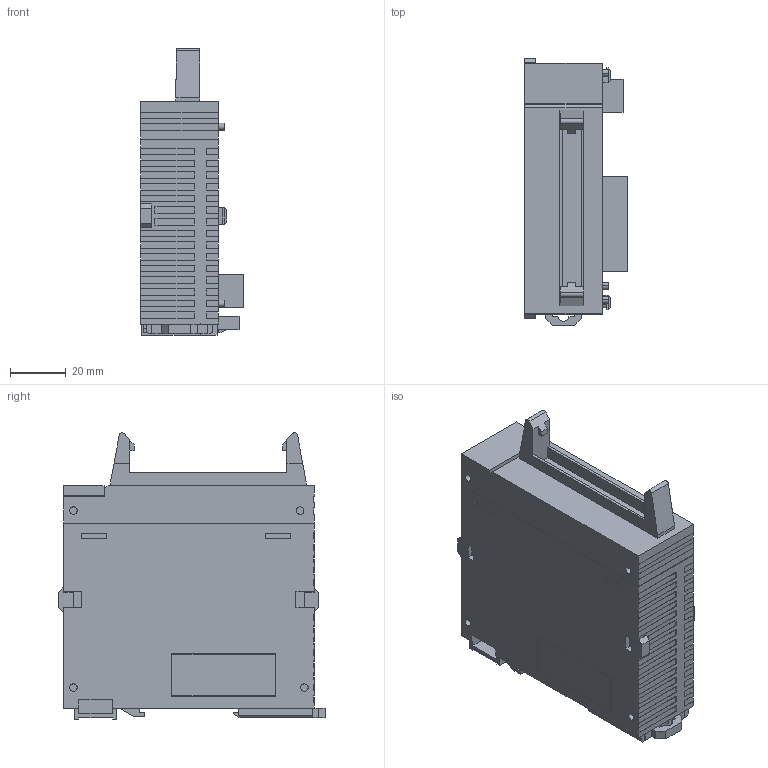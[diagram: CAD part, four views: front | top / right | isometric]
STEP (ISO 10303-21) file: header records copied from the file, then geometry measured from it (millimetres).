
FILE_DESCRIPTION (( 'STEP AP203' ), '1' );
FILE_NAME ('afp7expm.STEP', '2014-06-23T00:15:45', ( '' ), ( '' ), 'SwSTEP 2.0', 'SolidWorks 2010', '' );
FILE_SCHEMA (( 'CONFIG_CONTROL_DESIGN' ));
Length unit declared in the file: millimetre
Products named in the file (3): afp7expm_EXPM; afp7cps4e_connectorcover; afp7expm
Assembly tree (2 placements, depth 2):
  afp7expm
    afp7expm_EXPM
    afp7cps4e_connectorcover
Bounding box: 37 x 95.75 x 103 mm (x, y, z)
Volume: 205317.1 mm3; surface area: 33165.8 mm2
Topology: 2 solids, 2 shells, 598 faces, 1680 edges, 1114 vertices
Faces by surface type: plane 572, cylinder 26
Entity records: 19205 total; most frequent: CARTESIAN_POINT 3397, ORIENTED_EDGE 3360, DIRECTION 2938, EDGE_CURVE 1680, LINE 1628, VECTOR 1628, VERTEX_POINT 1114, AXIS2_PLACEMENT_3D 655
